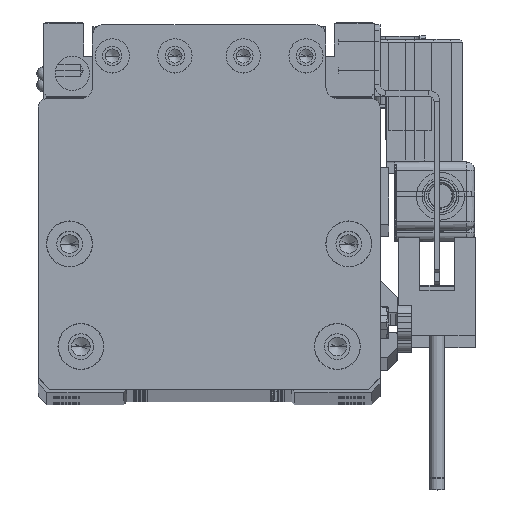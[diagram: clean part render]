
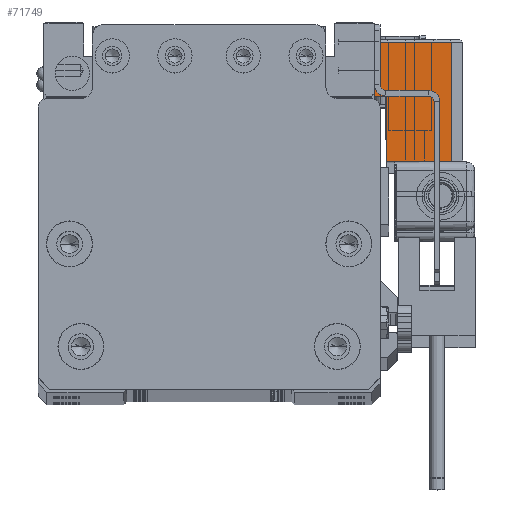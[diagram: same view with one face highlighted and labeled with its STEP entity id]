
A CAD part, top view. The second image highlights one B-rep face of the part: STEP entity #71749.
In plain terms, the highlighted planar face has unit normal (0, 0, 1) as drawn and (-1, 0, 0) by its records, which use the part's own axes.
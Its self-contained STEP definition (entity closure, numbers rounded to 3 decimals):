
#54 = ORIENTED_EDGE ( 'NONE', *, *, #40985, .T. ) ;
#1601 = LINE ( 'NONE', #66148, #41171 ) ;
#2337 = VERTEX_POINT ( 'NONE', #7219 ) ;
#2746 = DIRECTION ( 'NONE',  ( 0., 0., -1. ) ) ;
#5239 = DIRECTION ( 'NONE',  ( 0., 0., 1. ) ) ;
#5866 = CARTESIAN_POINT ( 'NONE',  ( -17., -10.75, -13.3 ) ) ;
#6822 = VERTEX_POINT ( 'NONE', #29212 ) ;
#7219 = CARTESIAN_POINT ( 'NONE',  ( -17., 0.75, -15.5 ) ) ;
#7828 = VECTOR ( 'NONE', #41144, 1000. ) ;
#12422 = EDGE_CURVE ( 'NONE', #31603, #27700, #1601, .T. ) ;
#12733 = LINE ( 'NONE', #36302, #59025 ) ;
#13346 = ORIENTED_EDGE ( 'NONE', *, *, #12422, .T. ) ;
#18563 = VECTOR ( 'NONE', #2746, 1000. ) ;
#23434 = DIRECTION ( 'NONE',  ( -1., 0., 0. ) ) ;
#23884 = AXIS2_PLACEMENT_3D ( 'NONE', #24209, #23434, #47017 ) ;
#24209 = CARTESIAN_POINT ( 'NONE',  ( -17., -10.75, -15.5 ) ) ;
#24835 = EDGE_CURVE ( 'NONE', #27700, #6822, #58772, .T. ) ;
#25945 = LINE ( 'NONE', #49524, #18563 ) ;
#27700 = VERTEX_POINT ( 'NONE', #65628 ) ;
#28962 = VECTOR ( 'NONE', #70716, 1000. ) ;
#29212 = CARTESIAN_POINT ( 'NONE',  ( -17., 10.25, -2. ) ) ;
#30658 = ORIENTED_EDGE ( 'NONE', *, *, #43903, .T. ) ;
#31603 = VERTEX_POINT ( 'NONE', #5866 ) ;
#34953 = ORIENTED_EDGE ( 'NONE', *, *, #50611, .T. ) ;
#34999 = CARTESIAN_POINT ( 'NONE',  ( -17., 0.75, -15.5 ) ) ;
#35892 = EDGE_LOOP ( 'NONE', ( #67172, #36831, #30658, #54, #34953, #13346 ) ) ;
#36302 = CARTESIAN_POINT ( 'NONE',  ( -17., -10.75, -13.3 ) ) ;
#36831 = ORIENTED_EDGE ( 'NONE', *, *, #51445, .T. ) ;
#38487 = CARTESIAN_POINT ( 'NONE',  ( -17., 0.75, -13.3 ) ) ;
#40985 = EDGE_CURVE ( 'NONE', #2337, #43715, #51627, .T. ) ;
#41144 = DIRECTION ( 'NONE',  ( 0., -1., 0. ) ) ;
#41171 = VECTOR ( 'NONE', #42958, 1000. ) ;
#42958 = DIRECTION ( 'NONE',  ( 0., 0., 1. ) ) ;
#43715 = VERTEX_POINT ( 'NONE', #38487 ) ;
#43814 = VERTEX_POINT ( 'NONE', #75931 ) ;
#43903 = EDGE_CURVE ( 'NONE', #43814, #2337, #64334, .T. ) ;
#47017 = DIRECTION ( 'NONE',  ( 0., 0., 1. ) ) ;
#49524 = CARTESIAN_POINT ( 'NONE',  ( -17., 10.25, -15.5 ) ) ;
#50611 = EDGE_CURVE ( 'NONE', #43715, #31603, #12733, .T. ) ;
#51445 = EDGE_CURVE ( 'NONE', #6822, #43814, #25945, .T. ) ;
#51627 = LINE ( 'NONE', #34999, #60575 ) ;
#53593 = FACE_OUTER_BOUND ( 'NONE', #35892, .T. ) ;
#54082 = DIRECTION ( 'NONE',  ( 0., -1., 0. ) ) ;
#58772 = LINE ( 'NONE', #71456, #28962 ) ;
#59025 = VECTOR ( 'NONE', #54082, 1000. ) ;
#60575 = VECTOR ( 'NONE', #5239, 1000. ) ;
#64334 = LINE ( 'NONE', #70489, #7828 ) ;
#65628 = CARTESIAN_POINT ( 'NONE',  ( -17., -10.75, -2. ) ) ;
#66148 = CARTESIAN_POINT ( 'NONE',  ( -17., -10.75, -15.5 ) ) ;
#67172 = ORIENTED_EDGE ( 'NONE', *, *, #24835, .T. ) ;
#70489 = CARTESIAN_POINT ( 'NONE',  ( -17., -10.75, -15.5 ) ) ;
#70716 = DIRECTION ( 'NONE',  ( 0., 1., 0. ) ) ;
#71456 = CARTESIAN_POINT ( 'NONE',  ( -17., 10.75, -2. ) ) ;
#71749 = ADVANCED_FACE ( 'NONE', ( #53593 ), #76363, .T. ) ;
#75931 = CARTESIAN_POINT ( 'NONE',  ( -17., 10.25, -15.5 ) ) ;
#76363 = PLANE ( 'NONE',  #23884 ) ;
